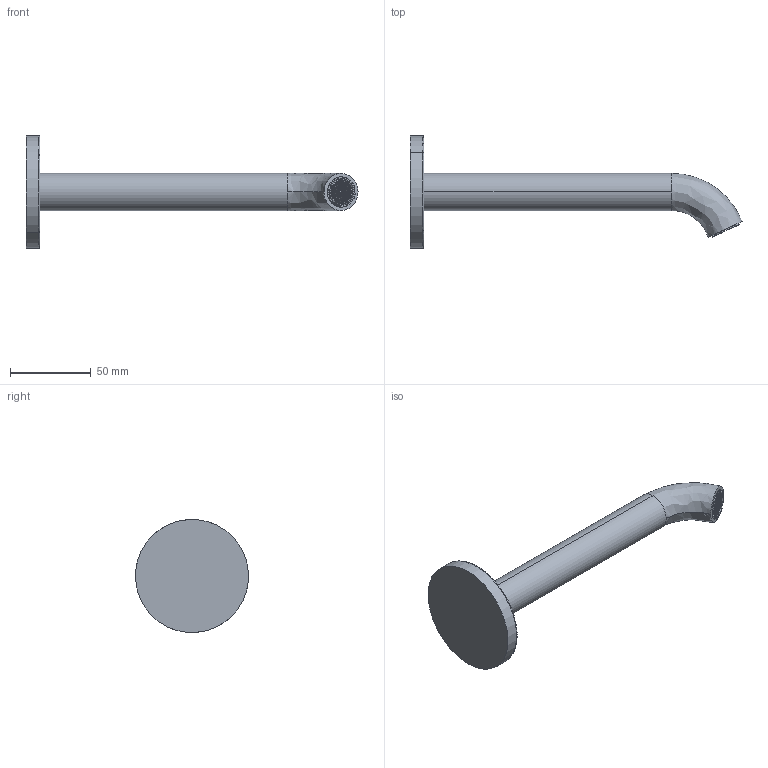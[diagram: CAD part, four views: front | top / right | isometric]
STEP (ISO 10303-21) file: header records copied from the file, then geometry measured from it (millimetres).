
FILE_DESCRIPTION (( 'STEP AP214' ), '1' );
FILE_NAME ('9921R110 x architetti.STEP', '2024-09-13T08:57:36', ( '' ), ( '' ), 'SwSTEP 2.0', 'SolidWorks 2020', '' );
FILE_SCHEMA (( 'AUTOMOTIVE_DESIGN' ));
Length unit declared in the file: millimetre
Products named in the file (1): 9921R110 x architetti
Bounding box: 204.96 x 69.6 x 69.63 mm (x, y, z)
Volume: 102422.5 mm3; surface area: 30623.8 mm2
Topology: 3 solids, 3 shells, 3908 faces, 11295 edges, 7313 vertices
Faces by surface type: plane 3341, cylinder 421, bspline 134, cone 12
Entity records: 186897 total; most frequent: CARTESIAN_POINT 51978, ORIENTED_EDGE 22590, DIRECTION 13600, EDGE_CURVE 11295, VERTEX_POINT 7313, LINE 5208, VECTOR 5208, B_SPLINE_CURVE_WITH_KNOTS 5036
